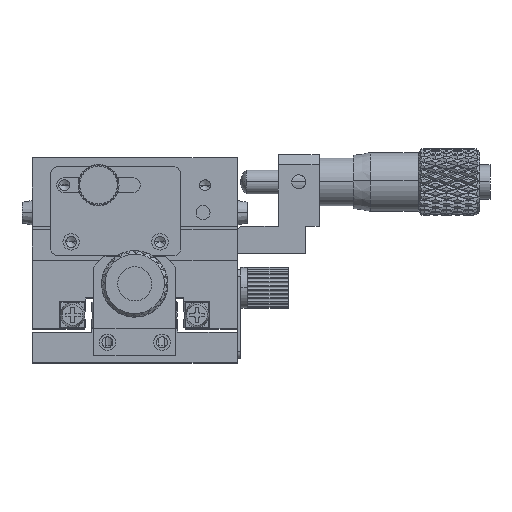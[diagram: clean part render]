
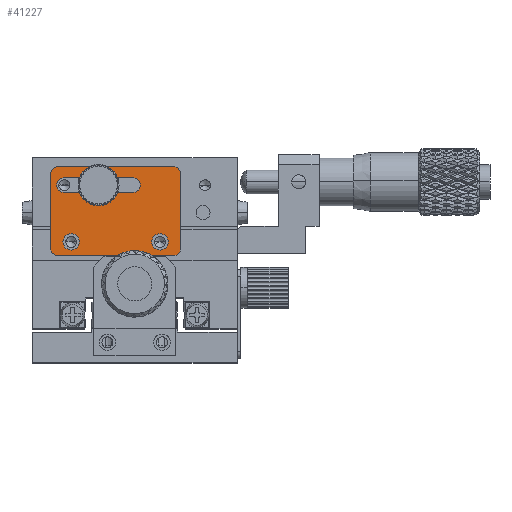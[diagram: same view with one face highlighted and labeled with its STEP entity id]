
A CAD part, top view. The second image highlights one B-rep face of the part: STEP entity #41227.
In plain terms, the highlighted planar face has unit normal (0, 0, 1) as drawn and (0, -1, 0) by its records, which use the part's own axes.
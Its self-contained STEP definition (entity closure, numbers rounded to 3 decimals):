
#129 = DIRECTION ( 'NONE',  ( 1., 0., 0. ) ) ;
#143 = CARTESIAN_POINT ( 'NONE',  ( -8.5, 0., 6.5 ) ) ;
#224 = CARTESIAN_POINT ( 'NONE',  ( -2.5, 0., -4.9 ) ) ;
#272 = VERTEX_POINT ( 'NONE', #10919 ) ;
#445 = EDGE_LOOP ( 'NONE', ( #26151, #43579 ) ) ;
#858 = VERTEX_POINT ( 'NONE', #26424 ) ;
#1187 = CARTESIAN_POINT ( 'NONE',  ( 7.5, 0., -4.9 ) ) ;
#1756 = DIRECTION ( 'NONE',  ( 0., 1., 0. ) ) ;
#1827 = EDGE_CURVE ( 'NONE', #44196, #18925, #41709, .T. ) ;
#2530 = CARTESIAN_POINT ( 'NONE',  ( -8.5, 0., -5.5 ) ) ;
#4678 = CARTESIAN_POINT ( 'NONE',  ( -2.5, 0., -4.9 ) ) ;
#5069 = DIRECTION ( 'NONE',  ( 0., 0., 1. ) ) ;
#5223 = EDGE_CURVE ( 'NONE', #6423, #20975, #44424, .T. ) ;
#5382 = CIRCLE ( 'NONE', #45332, 1. ) ;
#5470 = CARTESIAN_POINT ( 'NONE',  ( -6.5, 0., 3.3 ) ) ;
#5927 = VERTEX_POINT ( 'NONE', #143 ) ;
#5940 = EDGE_CURVE ( 'NONE', #42905, #272, #27546, .T. ) ;
#6202 = DIRECTION ( 'NONE',  ( 0., 0., 1. ) ) ;
#6423 = VERTEX_POINT ( 'NONE', #4678 ) ;
#6633 = AXIS2_PLACEMENT_3D ( 'NONE', #2530, #27762, #6202 ) ;
#6701 = CARTESIAN_POINT ( 'NONE',  ( -9.5, 0., -5.5 ) ) ;
#6725 = DIRECTION ( 'NONE',  ( 0., 1., 0. ) ) ;
#7140 = DIRECTION ( 'NONE',  ( 0., 1., 0. ) ) ;
#7229 = AXIS2_PLACEMENT_3D ( 'NONE', #23414, #1756, #27008 ) ;
#7488 = LINE ( 'NONE', #25408, #43453 ) ;
#7754 = CARTESIAN_POINT ( 'NONE',  ( 8.5, 0., 5.5 ) ) ;
#7900 = CIRCLE ( 'NONE', #7229, 1.2 ) ;
#8084 = EDGE_CURVE ( 'NONE', #33640, #17105, #36948, .T. ) ;
#8125 = CARTESIAN_POINT ( 'NONE',  ( -6.5, 0., 4.5 ) ) ;
#8271 = ORIENTED_EDGE ( 'NONE', *, *, #5940, .F. ) ;
#8334 = CARTESIAN_POINT ( 'NONE',  ( -2.5, 0., -2.7 ) ) ;
#8529 = AXIS2_PLACEMENT_3D ( 'NONE', #11084, #36201, #14730 ) ;
#8596 = CARTESIAN_POINT ( 'NONE',  ( -8.5, 0., 5.5 ) ) ;
#8605 = ORIENTED_EDGE ( 'NONE', *, *, #36473, .F. ) ;
#8725 = ORIENTED_EDGE ( 'NONE', *, *, #46275, .T. ) ;
#8951 = DIRECTION ( 'NONE',  ( -1., 0., 0. ) ) ;
#9193 = ORIENTED_EDGE ( 'NONE', *, *, #19698, .F. ) ;
#10030 = CARTESIAN_POINT ( 'NONE',  ( 7.5, 0., -3.8 ) ) ;
#10269 = EDGE_CURVE ( 'NONE', #13837, #858, #31799, .T. ) ;
#10397 = CARTESIAN_POINT ( 'NONE',  ( 9.5, 0., 5.5 ) ) ;
#10502 = CARTESIAN_POINT ( 'NONE',  ( -8.5, 0., 6.5 ) ) ;
#10919 = CARTESIAN_POINT ( 'NONE',  ( 9.5, 0., -5.5 ) ) ;
#11084 = CARTESIAN_POINT ( 'NONE',  ( -2.5, 0., -3.8 ) ) ;
#11316 = EDGE_CURVE ( 'NONE', #23966, #45251, #40530, .T. ) ;
#11357 = DIRECTION ( 'NONE',  ( 0., 0., 1. ) ) ;
#11528 = EDGE_LOOP ( 'NONE', ( #17967, #8725 ) ) ;
#11762 = DIRECTION ( 'NONE',  ( 0., 0., 1. ) ) ;
#12569 = AXIS2_PLACEMENT_3D ( 'NONE', #8125, #33278, #11762 ) ;
#12788 = CIRCLE ( 'NONE', #42543, 1. ) ;
#12910 = AXIS2_PLACEMENT_3D ( 'NONE', #35542, #14085, #39153 ) ;
#13643 = DIRECTION ( 'NONE',  ( 0., 0., 1. ) ) ;
#13646 = EDGE_CURVE ( 'NONE', #23955, #38790, #7900, .T. ) ;
#13760 = CARTESIAN_POINT ( 'NONE',  ( -9.5, 0., -5.5 ) ) ;
#13837 = VERTEX_POINT ( 'NONE', #6701 ) ;
#14085 = DIRECTION ( 'NONE',  ( 0., 1., 0. ) ) ;
#14730 = DIRECTION ( 'NONE',  ( 0., 0., 1. ) ) ;
#14811 = DIRECTION ( 'NONE',  ( -1., 0., 0. ) ) ;
#14979 = AXIS2_PLACEMENT_3D ( 'NONE', #28277, #6725, #31902 ) ;
#15358 = VECTOR ( 'NONE', #8951, 1000. ) ;
#16004 = CIRCLE ( 'NONE', #6633, 1. ) ;
#16198 = ORIENTED_EDGE ( 'NONE', *, *, #1827, .F. ) ;
#17009 = FACE_BOUND ( 'NONE', #445, .T. ) ;
#17105 = VERTEX_POINT ( 'NONE', #1187 ) ;
#17432 = DIRECTION ( 'NONE',  ( 1., 0., 0. ) ) ;
#17545 = AXIS2_PLACEMENT_3D ( 'NONE', #7754, #32893, #11357 ) ;
#17967 = ORIENTED_EDGE ( 'NONE', *, *, #13646, .T. ) ;
#18352 = DIRECTION ( 'NONE',  ( 0., 0., -1. ) ) ;
#18738 = EDGE_CURVE ( 'NONE', #18925, #13837, #16004, .T. ) ;
#18841 = VECTOR ( 'NONE', #34465, 1000. ) ;
#18925 = VERTEX_POINT ( 'NONE', #33090 ) ;
#19021 = CARTESIAN_POINT ( 'NONE',  ( -6.5, 0., 5.7 ) ) ;
#19436 = PLANE ( 'NONE',  #26856 ) ;
#19447 = ORIENTED_EDGE ( 'NONE', *, *, #10269, .F. ) ;
#19698 = EDGE_CURVE ( 'NONE', #5927, #28927, #27192, .T. ) ;
#20061 = EDGE_LOOP ( 'NONE', ( #23404, #29226, #29019, #25821 ) ) ;
#20081 = EDGE_CURVE ( 'NONE', #20975, #33640, #7488, .T. ) ;
#20234 = ORIENTED_EDGE ( 'NONE', *, *, #31831, .F. ) ;
#20975 = VERTEX_POINT ( 'NONE', #8334 ) ;
#21003 = CIRCLE ( 'NONE', #17545, 1. ) ;
#21356 = VECTOR ( 'NONE', #14811, 1000. ) ;
#21655 = DIRECTION ( 'NONE',  ( 0., 1., 0. ) ) ;
#23404 = ORIENTED_EDGE ( 'NONE', *, *, #5223, .T. ) ;
#23414 = CARTESIAN_POINT ( 'NONE',  ( -6.5, 0., 4.5 ) ) ;
#23614 = EDGE_CURVE ( 'NONE', #45251, #23966, #41576, .T. ) ;
#23955 = VERTEX_POINT ( 'NONE', #5470 ) ;
#23966 = VERTEX_POINT ( 'NONE', #39402 ) ;
#25408 = CARTESIAN_POINT ( 'NONE',  ( -2.5, 0., -2.7 ) ) ;
#25821 = ORIENTED_EDGE ( 'NONE', *, *, #40337, .T. ) ;
#26151 = ORIENTED_EDGE ( 'NONE', *, *, #11316, .T. ) ;
#26424 = CARTESIAN_POINT ( 'NONE',  ( -9.5, 0., 5.5 ) ) ;
#26583 = FACE_BOUND ( 'NONE', #20061, .T. ) ;
#26675 = DIRECTION ( 'NONE',  ( 0., 1., 0. ) ) ;
#26856 = AXIS2_PLACEMENT_3D ( 'NONE', #8596, #26675, #5069 ) ;
#26867 = CARTESIAN_POINT ( 'NONE',  ( -8.5, 0., -6.5 ) ) ;
#27008 = DIRECTION ( 'NONE',  ( 0., 0., 1. ) ) ;
#27078 = EDGE_CURVE ( 'NONE', #858, #5927, #5382, .T. ) ;
#27192 = LINE ( 'NONE', #10502, #46315 ) ;
#27546 = LINE ( 'NONE', #43449, #44384 ) ;
#27762 = DIRECTION ( 'NONE',  ( 0., 1., 0. ) ) ;
#28277 = CARTESIAN_POINT ( 'NONE',  ( 6.5, 0., 4.5 ) ) ;
#28694 = CARTESIAN_POINT ( 'NONE',  ( 8.5, 0., -5.5 ) ) ;
#28927 = VERTEX_POINT ( 'NONE', #30832 ) ;
#28986 = CARTESIAN_POINT ( 'NONE',  ( 8.5, 0., -6.5 ) ) ;
#29019 = ORIENTED_EDGE ( 'NONE', *, *, #8084, .T. ) ;
#29226 = ORIENTED_EDGE ( 'NONE', *, *, #20081, .T. ) ;
#30697 = EDGE_LOOP ( 'NONE', ( #33495, #19447, #46190, #16198, #20234, #8271, #8605, #9193 ) ) ;
#30832 = CARTESIAN_POINT ( 'NONE',  ( 8.5, 0., 6.5 ) ) ;
#30916 = LINE ( 'NONE', #224, #21356 ) ;
#31799 = LINE ( 'NONE', #13760, #18841 ) ;
#31831 = EDGE_CURVE ( 'NONE', #272, #44196, #12788, .T. ) ;
#31902 = DIRECTION ( 'NONE',  ( 0., 0., 1. ) ) ;
#32287 = DIRECTION ( 'NONE',  ( 0., 0., -1. ) ) ;
#32893 = DIRECTION ( 'NONE',  ( 0., 1., 0. ) ) ;
#33090 = CARTESIAN_POINT ( 'NONE',  ( -8.5, 0., -6.5 ) ) ;
#33278 = DIRECTION ( 'NONE',  ( 0., 1., 0. ) ) ;
#33495 = ORIENTED_EDGE ( 'NONE', *, *, #27078, .F. ) ;
#33640 = VERTEX_POINT ( 'NONE', #40944 ) ;
#34465 = DIRECTION ( 'NONE',  ( 0., 0., 1. ) ) ;
#35142 = DIRECTION ( 'NONE',  ( 0., 1., 0. ) ) ;
#35426 = CARTESIAN_POINT ( 'NONE',  ( 6.5, 0., 5.7 ) ) ;
#35542 = CARTESIAN_POINT ( 'NONE',  ( 6.5, 0., 4.5 ) ) ;
#36108 = FACE_OUTER_BOUND ( 'NONE', #30697, .T. ) ;
#36201 = DIRECTION ( 'NONE',  ( 0., 1., 0. ) ) ;
#36473 = EDGE_CURVE ( 'NONE', #28927, #42905, #21003, .T. ) ;
#36948 = CIRCLE ( 'NONE', #38424, 1.1 ) ;
#37572 = CIRCLE ( 'NONE', #12569, 1.2 ) ;
#38424 = AXIS2_PLACEMENT_3D ( 'NONE', #10030, #35142, #13643 ) ;
#38790 = VERTEX_POINT ( 'NONE', #19021 ) ;
#39153 = DIRECTION ( 'NONE',  ( 0., 0., 1. ) ) ;
#39402 = CARTESIAN_POINT ( 'NONE',  ( 6.5, 0., 3.3 ) ) ;
#40337 = EDGE_CURVE ( 'NONE', #17105, #6423, #30916, .T. ) ;
#40530 = CIRCLE ( 'NONE', #14979, 1.2 ) ;
#40944 = CARTESIAN_POINT ( 'NONE',  ( 7.5, 0., -2.7 ) ) ;
#41161 = FACE_BOUND ( 'NONE', #11528, .T. ) ;
#41227 = ADVANCED_FACE ( 'NONE', ( #41161, #36108, #26583, #17009 ), #19436, .F. ) ;
#41576 = CIRCLE ( 'NONE', #12910, 1.2 ) ;
#41709 = LINE ( 'NONE', #26867, #15358 ) ;
#42543 = AXIS2_PLACEMENT_3D ( 'NONE', #28694, #7140, #32287 ) ;
#42905 = VERTEX_POINT ( 'NONE', #10397 ) ;
#43148 = CARTESIAN_POINT ( 'NONE',  ( -8.5, 0., 5.5 ) ) ;
#43449 = CARTESIAN_POINT ( 'NONE',  ( 9.5, 0., -5.5 ) ) ;
#43453 = VECTOR ( 'NONE', #129, 1000. ) ;
#43579 = ORIENTED_EDGE ( 'NONE', *, *, #23614, .T. ) ;
#44196 = VERTEX_POINT ( 'NONE', #28986 ) ;
#44331 = DIRECTION ( 'NONE',  ( 0., 0., 1. ) ) ;
#44384 = VECTOR ( 'NONE', #18352, 1000. ) ;
#44424 = CIRCLE ( 'NONE', #8529, 1.1 ) ;
#45251 = VERTEX_POINT ( 'NONE', #35426 ) ;
#45332 = AXIS2_PLACEMENT_3D ( 'NONE', #43148, #21655, #44331 ) ;
#46190 = ORIENTED_EDGE ( 'NONE', *, *, #18738, .F. ) ;
#46275 = EDGE_CURVE ( 'NONE', #38790, #23955, #37572, .T. ) ;
#46315 = VECTOR ( 'NONE', #17432, 1000. ) ;
